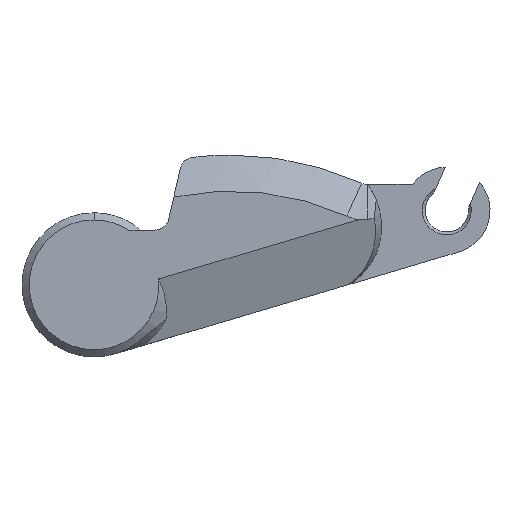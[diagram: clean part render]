
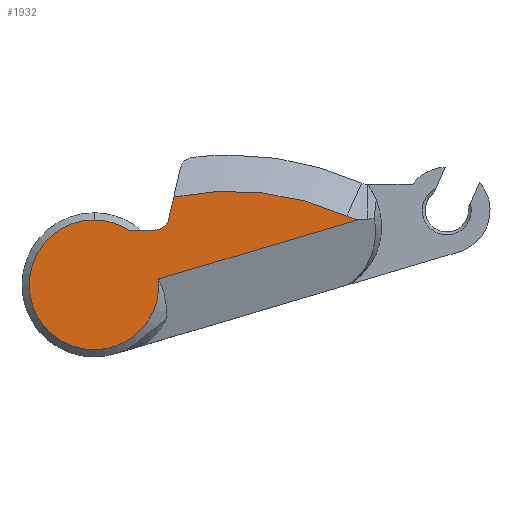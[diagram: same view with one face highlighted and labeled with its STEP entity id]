
A CAD part, left-side view. The second image highlights one B-rep face of the part: STEP entity #1932.
In plain terms, the highlighted planar face has unit normal (-1, 0, 0).
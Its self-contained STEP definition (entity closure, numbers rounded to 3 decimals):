
#11 = DIRECTION ( 'NONE',  ( 0., 0., -1. ) ) ;
#21 = CARTESIAN_POINT ( 'NONE',  ( -3., -4.205, 4.8 ) ) ;
#24 = DIRECTION ( 'NONE',  ( 1., 0., 0. ) ) ;
#43 = ORIENTED_EDGE ( 'NONE', *, *, #2003, .T. ) ;
#48 = ORIENTED_EDGE ( 'NONE', *, *, #1324, .T. ) ;
#50 = CARTESIAN_POINT ( 'NONE',  ( -3., -4.205, 3.8 ) ) ;
#63 = LINE ( 'NONE', #1132, #1896 ) ;
#95 = CARTESIAN_POINT ( 'NONE',  ( -3., -17.529, 4.77 ) ) ;
#106 = EDGE_CURVE ( 'NONE', #1503, #2202, #1076, .T. ) ;
#114 = DIRECTION ( 'NONE',  ( 1., 0., 0. ) ) ;
#142 = CARTESIAN_POINT ( 'NONE',  ( -3., 0., 0. ) ) ;
#156 = LINE ( 'NONE', #662, #1650 ) ;
#197 = AXIS2_PLACEMENT_3D ( 'NONE', #1543, #876, #1394 ) ;
#250 = DIRECTION ( 'NONE',  ( -1., 0., 0. ) ) ;
#293 = VERTEX_POINT ( 'NONE', #1653 ) ;
#297 = VERTEX_POINT ( 'NONE', #95 ) ;
#314 = VERTEX_POINT ( 'NONE', #1355 ) ;
#315 = DIRECTION ( 'NONE',  ( 0., 0., -1. ) ) ;
#341 = AXIS2_PLACEMENT_3D ( 'NONE', #1591, #24, #11 ) ;
#348 = LINE ( 'NONE', #1231, #617 ) ;
#378 = CIRCLE ( 'NONE', #1387, 4.5 ) ;
#501 = AXIS2_PLACEMENT_3D ( 'NONE', #21, #1589, #1599 ) ;
#538 = DIRECTION ( 'NONE',  ( -1., 0., 0. ) ) ;
#548 = DIRECTION ( 'NONE',  ( 0., 0., -1. ) ) ;
#562 = EDGE_CURVE ( 'NONE', #293, #314, #348, .T. ) ;
#580 = DIRECTION ( 'NONE',  ( 0., 0., -1. ) ) ;
#617 = VECTOR ( 'NONE', #1035, 1000. ) ;
#662 = CARTESIAN_POINT ( 'NONE',  ( -3., 0., 3.8 ) ) ;
#692 = CARTESIAN_POINT ( 'NONE',  ( -3., -2.41, 3.8 ) ) ;
#708 = CIRCLE ( 'NONE', #1758, 4.5 ) ;
#793 = VERTEX_POINT ( 'NONE', #2012 ) ;
#830 = VERTEX_POINT ( 'NONE', #1480 ) ;
#876 = DIRECTION ( 'NONE',  ( -1., 0., 0. ) ) ;
#990 = VERTEX_POINT ( 'NONE', #1251 ) ;
#1009 = CARTESIAN_POINT ( 'NONE',  ( -3., -5.179, 4.575 ) ) ;
#1019 = ORIENTED_EDGE ( 'NONE', *, *, #1062, .T. ) ;
#1035 = DIRECTION ( 'NONE',  ( 0., -0.959, 0.284 ) ) ;
#1062 = EDGE_CURVE ( 'NONE', #793, #830, #1320, .T. ) ;
#1076 = CIRCLE ( 'NONE', #501, 1. ) ;
#1104 = CIRCLE ( 'NONE', #341, 3.5 ) ;
#1105 = AXIS2_PLACEMENT_3D ( 'NONE', #1853, #114, #315 ) ;
#1132 = CARTESIAN_POINT ( 'NONE',  ( -3., -3.914, -0.904 ) ) ;
#1186 = EDGE_CURVE ( 'NONE', #830, #293, #378, .T. ) ;
#1231 = CARTESIAN_POINT ( 'NONE',  ( -3., -0.25, -0.843 ) ) ;
#1244 = CIRCLE ( 'NONE', #197, 19.5 ) ;
#1251 = CARTESIAN_POINT ( 'NONE',  ( -3., -5.529, 6.091 ) ) ;
#1270 = DIRECTION ( 'NONE',  ( 0., 0., -1. ) ) ;
#1289 = EDGE_LOOP ( 'NONE', ( #2162, #1715, #1852, #48, #1019, #1867, #1626, #43, #1881 ) ) ;
#1320 = CIRCLE ( 'NONE', #1610, 4.5 ) ;
#1324 = EDGE_CURVE ( 'NONE', #2096, #793, #708, .T. ) ;
#1325 = FACE_OUTER_BOUND ( 'NONE', #1289, .T. ) ;
#1355 = CARTESIAN_POINT ( 'NONE',  ( -3., -18.342, 4.517 ) ) ;
#1387 = AXIS2_PLACEMENT_3D ( 'NONE', #142, #538, #548 ) ;
#1394 = DIRECTION ( 'NONE',  ( 0., 0., -1. ) ) ;
#1456 = CARTESIAN_POINT ( 'NONE',  ( -3., 0., 0. ) ) ;
#1480 = CARTESIAN_POINT ( 'NONE',  ( -3., 0., -4.5 ) ) ;
#1501 = DIRECTION ( 'NONE',  ( 0., 1., 0. ) ) ;
#1503 = VERTEX_POINT ( 'NONE', #1009 ) ;
#1543 = CARTESIAN_POINT ( 'NONE',  ( -3., -9.5, -13. ) ) ;
#1589 = DIRECTION ( 'NONE',  ( 1., 0., 0. ) ) ;
#1591 = CARTESIAN_POINT ( 'NONE',  ( -3., -18.97, 7.96 ) ) ;
#1599 = DIRECTION ( 'NONE',  ( 0., 0., -1. ) ) ;
#1603 = DIRECTION ( 'NONE',  ( 0., 0.225, -0.974 ) ) ;
#1610 = AXIS2_PLACEMENT_3D ( 'NONE', #1803, #250, #580 ) ;
#1626 = ORIENTED_EDGE ( 'NONE', *, *, #562, .T. ) ;
#1650 = VECTOR ( 'NONE', #1501, 1000. ) ;
#1653 = CARTESIAN_POINT ( 'NONE',  ( -3., -4.481, 0.411 ) ) ;
#1715 = ORIENTED_EDGE ( 'NONE', *, *, #106, .T. ) ;
#1758 = AXIS2_PLACEMENT_3D ( 'NONE', #1456, #2131, #1270 ) ;
#1803 = CARTESIAN_POINT ( 'NONE',  ( -3., 0., 0. ) ) ;
#1852 = ORIENTED_EDGE ( 'NONE', *, *, #1946, .T. ) ;
#1853 = CARTESIAN_POINT ( 'NONE',  ( -3., 0., 0. ) ) ;
#1867 = ORIENTED_EDGE ( 'NONE', *, *, #1186, .T. ) ;
#1881 = ORIENTED_EDGE ( 'NONE', *, *, #2026, .T. ) ;
#1896 = VECTOR ( 'NONE', #1603, 1000. ) ;
#1932 = ADVANCED_FACE ( 'NONE', ( #1325 ), #2055, .F. ) ;
#1946 = EDGE_CURVE ( 'NONE', #2202, #2096, #156, .T. ) ;
#2003 = EDGE_CURVE ( 'NONE', #314, #297, #1104, .T. ) ;
#2012 = CARTESIAN_POINT ( 'NONE',  ( -3., 0., 4.5 ) ) ;
#2026 = EDGE_CURVE ( 'NONE', #297, #990, #1244, .T. ) ;
#2055 = PLANE ( 'NONE',  #1105 ) ;
#2096 = VERTEX_POINT ( 'NONE', #692 ) ;
#2131 = DIRECTION ( 'NONE',  ( -1., 0., 0. ) ) ;
#2162 = ORIENTED_EDGE ( 'NONE', *, *, #2172, .T. ) ;
#2172 = EDGE_CURVE ( 'NONE', #990, #1503, #63, .T. ) ;
#2202 = VERTEX_POINT ( 'NONE', #50 ) ;
